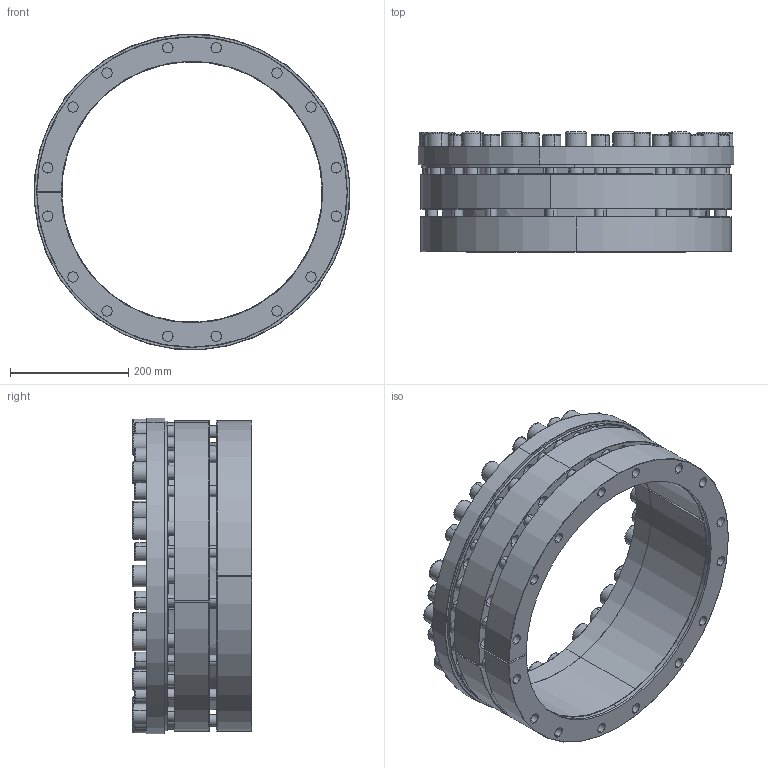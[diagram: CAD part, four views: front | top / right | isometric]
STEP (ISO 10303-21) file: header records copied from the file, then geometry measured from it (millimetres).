
FILE_DESCRIPTION (( 'STEP AP214' ), '1' );
FILE_NAME ('CONEX-P-440x525-P-016.step', '2015-11-30T21:14:58', ( '' ), ( '' ), 'SwSTEP 2.0', 'SolidWorks 2013', '' );
FILE_SCHEMA (( 'AUTOMOTIVE_DESIGN' ));
Length unit declared in the file: millimetre
Products named in the file (1): CONEX-P-440x525-P-016
Bounding box: 533 x 202 x 533 mm (x, y, z)
Volume: 10760744.5 mm3; surface area: 1817605.4 mm2
Topology: 35 solids, 35 shells, 1123 faces, 2583 edges, 1532 vertices
Faces by surface type: plane 502, cylinder 325, cone 166, torus 130
Entity records: 44276 total; most frequent: DIRECTION 5953, CARTESIAN_POINT 5291, ORIENTED_EDGE 5038, EDGE_CURVE 2519, AXIS2_PLACEMENT_3D 2338, VERTEX_POINT 1532, EDGE_LOOP 1365, LINE 1277
